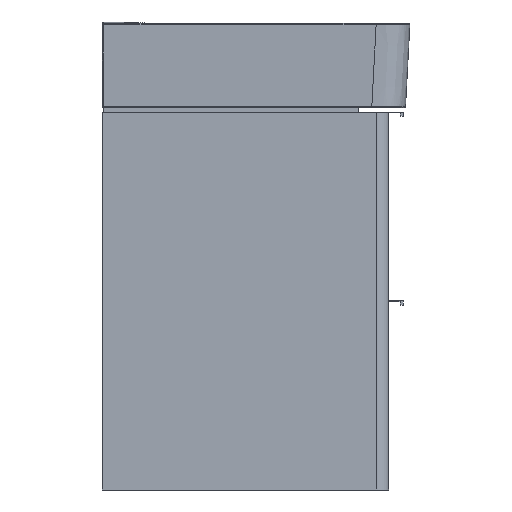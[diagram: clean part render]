
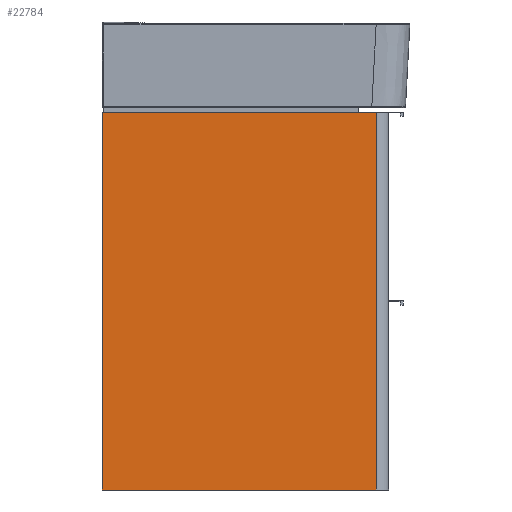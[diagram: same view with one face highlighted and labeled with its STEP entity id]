
A CAD part, left-side view. The second image highlights one B-rep face of the part: STEP entity #22784.
In plain terms, the highlighted planar face has unit normal (-1, 0, 0).
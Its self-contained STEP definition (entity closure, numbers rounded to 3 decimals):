
#4136=FACE_OUTER_BOUND('',#5207,.T.);
#5207=EDGE_LOOP('',(#17101,#17102,#17103,#17104));
#6440=LINE('',#31713,#8123);
#6442=LINE('',#31719,#8125);
#6446=LINE('',#31727,#8129);
#6447=LINE('',#31728,#8130);
#8123=VECTOR('',#26231,10.);
#8125=VECTOR('',#26237,10.);
#8129=VECTOR('',#26243,10.);
#8130=VECTOR('',#26244,10.);
#9796=VERTEX_POINT('',#31710);
#9797=VERTEX_POINT('',#31712);
#9799=VERTEX_POINT('',#31718);
#9802=VERTEX_POINT('',#31726);
#13211=EDGE_CURVE('',#9796,#9797,#6440,.T.);
#13214=EDGE_CURVE('',#9797,#9799,#6442,.T.);
#13218=EDGE_CURVE('',#9802,#9796,#6446,.T.);
#13219=EDGE_CURVE('',#9799,#9802,#6447,.T.);
#17101=ORIENTED_EDGE('',*,*,#13211,.F.);
#17102=ORIENTED_EDGE('',*,*,#13218,.F.);
#17103=ORIENTED_EDGE('',*,*,#13219,.F.);
#17104=ORIENTED_EDGE('',*,*,#13214,.F.);
#22283=PLANE('',#24269);
#22784=ADVANCED_FACE('',(#4136),#22283,.T.);
#24269=AXIS2_PLACEMENT_3D('',#31725,#26241,#26242);
#26231=DIRECTION('',(0.,0.,-1.));
#26237=DIRECTION('',(0.,1.,0.));
#26241=DIRECTION('center_axis',(-1.,0.,0.));
#26242=DIRECTION('ref_axis',(0.,-1.,0.));
#26243=DIRECTION('',(0.,-1.,0.));
#26244=DIRECTION('',(0.,0.,1.));
#31710=CARTESIAN_POINT('',(-317.25,-178.5,515.));
#31712=CARTESIAN_POINT('',(-317.25,-178.5,0.));
#31713=CARTESIAN_POINT('',(-317.25,-178.5,0.));
#31718=CARTESIAN_POINT('',(-317.25,195.5,0.));
#31719=CARTESIAN_POINT('',(-317.25,-195.5,0.));
#31725=CARTESIAN_POINT('Origin',(-317.25,195.5,0.));
#31726=CARTESIAN_POINT('',(-317.25,195.5,515.));
#31727=CARTESIAN_POINT('',(-317.25,-195.5,515.));
#31728=CARTESIAN_POINT('',(-317.25,195.5,0.));
